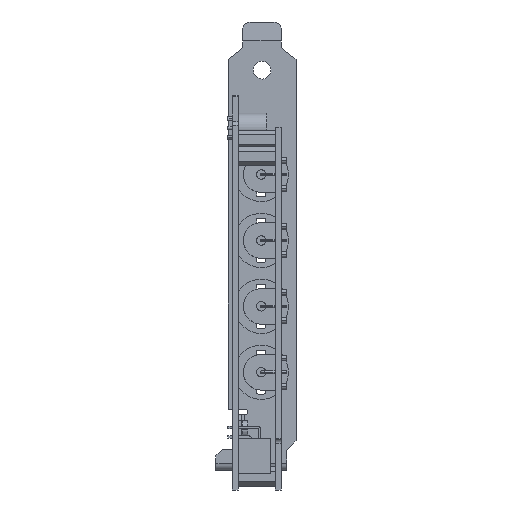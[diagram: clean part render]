
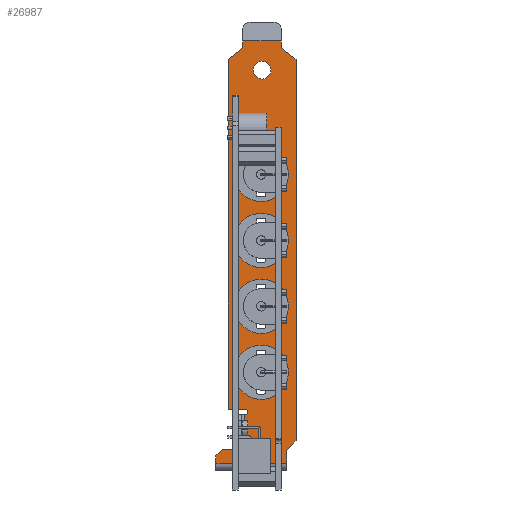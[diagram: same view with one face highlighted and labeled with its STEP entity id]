
A CAD part, front view. The second image highlights one B-rep face of the part: STEP entity #26987.
In plain terms, the highlighted planar face has unit normal (0, -1, 0).
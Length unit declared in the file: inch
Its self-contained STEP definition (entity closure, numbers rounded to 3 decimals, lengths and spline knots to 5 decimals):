
#6784=DIRECTION('',(0.,0.,1.));
#6785=VECTOR('',#6784,0.312);
#6786=CARTESIAN_POINT('',(0.132,0.335,-3.518));
#6787=LINE('',#6786,#6785);
#6962=DIRECTION('',(1.,0.,0.));
#6963=VECTOR('',#6962,0.412);
#6964=CARTESIAN_POINT('',(0.108,0.335,0.764));
#6965=LINE('',#6964,#6963);
#6966=DIRECTION('',(0.,0.,-1.));
#6967=VECTOR('',#6966,0.074);
#6968=CARTESIAN_POINT('',(0.52,0.335,0.764));
#6969=LINE('',#6968,#6967);
#6970=DIRECTION('',(-0.788,0.,0.616));
#6971=VECTOR('',#6970,0.1967);
#6972=CARTESIAN_POINT('',(0.675,0.335,0.5689));
#6973=LINE('',#6972,#6971);
#6974=DIRECTION('',(0.707,0.,0.707));
#6975=VECTOR('',#6974,0.14142);
#6976=CARTESIAN_POINT('',(0.575,0.335,-3.583));
#6977=LINE('',#6976,#6975);
#6978=DIRECTION('',(0.,0.,1.));
#6979=VECTOR('',#6978,0.137);
#6980=CARTESIAN_POINT('',(0.575,0.335,-3.72));
#6981=LINE('',#6980,#6979);
#6982=DIRECTION('',(-1.,0.,0.));
#6983=VECTOR('',#6982,0.75);
#6984=CARTESIAN_POINT('',(0.575,0.335,-3.72));
#6985=LINE('',#6984,#6983);
#6986=DIRECTION('',(-0.707,0.,-0.707));
#6987=VECTOR('',#6986,0.09192);
#6988=CARTESIAN_POINT('',(-0.11,0.335,-3.577));
#6989=LINE('',#6988,#6987);
#6990=DIRECTION('',(1.,0.,0.));
#6991=VECTOR('',#6990,0.242);
#6992=CARTESIAN_POINT('',(-0.11,0.335,-3.577));
#6993=LINE('',#6992,#6991);
#6994=CARTESIAN_POINT('',(0.132,0.335,-3.5475));
#6995=DIRECTION('',(0.,1.,0.));
#6996=DIRECTION('',(0.,0.,1.));
#6997=AXIS2_PLACEMENT_3D('',#6994,#6995,#6996);
#6999=CARTESIAN_POINT('',(0.132,0.335,-3.1765));
#7000=DIRECTION('',(0.,1.,0.));
#7001=DIRECTION('',(0.,0.,1.));
#7002=AXIS2_PLACEMENT_3D('',#6999,#7000,#7001);
#7004=DIRECTION('',(-1.,0.,0.));
#7005=VECTOR('',#7004,0.179);
#7006=CARTESIAN_POINT('',(0.132,0.335,-3.147));
#7007=LINE('',#7006,#7005);
#7008=DIRECTION('',(0.,0.,-1.));
#7009=VECTOR('',#7008,3.7159);
#7010=CARTESIAN_POINT('',(-0.047,0.335,0.5689));
#7011=LINE('',#7010,#7009);
#7012=DIRECTION('',(-0.788,0.,-0.616));
#7013=VECTOR('',#7012,0.1967);
#7014=CARTESIAN_POINT('',(0.108,0.335,0.69));
#7015=LINE('',#7014,#7013);
#7016=DIRECTION('',(0.,0.,-1.));
#7017=VECTOR('',#7016,0.074);
#7018=CARTESIAN_POINT('',(0.108,0.335,0.764));
#7019=LINE('',#7018,#7017);
#7020=CARTESIAN_POINT('',(0.314,0.335,0.453));
#7021=DIRECTION('',(0.,1.,0.));
#7022=DIRECTION('',(0.,0.,1.));
#7023=AXIS2_PLACEMENT_3D('',#7020,#7021,#7022);
#7025=CARTESIAN_POINT('',(0.314,0.335,0.453));
#7026=DIRECTION('',(0.,1.,0.));
#7027=DIRECTION('',(0.,0.,-1.));
#7028=AXIS2_PLACEMENT_3D('',#7025,#7026,#7027);
#7030=CARTESIAN_POINT('',(0.239,0.335,-0.16));
#7031=DIRECTION('',(0.,1.,0.));
#7032=DIRECTION('',(1.,0.,0.));
#7033=AXIS2_PLACEMENT_3D('',#7030,#7031,#7032);
#7035=CARTESIAN_POINT('',(0.239,0.335,-0.16));
#7036=DIRECTION('',(0.,1.,0.));
#7037=DIRECTION('',(-1.,0.,0.));
#7038=AXIS2_PLACEMENT_3D('',#7035,#7036,#7037);
#7040=CARTESIAN_POINT('',(0.30639,0.335,-2.754));
#7041=DIRECTION('',(0.,-1.,0.));
#7042=DIRECTION('',(1.,0.,0.));
#7043=AXIS2_PLACEMENT_3D('',#7040,#7041,#7042);
#7045=CARTESIAN_POINT('',(0.30639,0.335,-2.754));
#7046=DIRECTION('',(0.,-1.,0.));
#7047=DIRECTION('',(-1.,0.,0.));
#7048=AXIS2_PLACEMENT_3D('',#7045,#7046,#7047);
#7050=CARTESIAN_POINT('',(0.30639,0.335,-2.054));
#7051=DIRECTION('',(0.,-1.,0.));
#7052=DIRECTION('',(1.,0.,0.));
#7053=AXIS2_PLACEMENT_3D('',#7050,#7051,#7052);
#7055=CARTESIAN_POINT('',(0.30639,0.335,-2.054));
#7056=DIRECTION('',(0.,-1.,0.));
#7057=DIRECTION('',(-1.,0.,0.));
#7058=AXIS2_PLACEMENT_3D('',#7055,#7056,#7057);
#7060=CARTESIAN_POINT('',(0.30639,0.335,-1.354));
#7061=DIRECTION('',(0.,-1.,0.));
#7062=DIRECTION('',(1.,0.,0.));
#7063=AXIS2_PLACEMENT_3D('',#7060,#7061,#7062);
#7065=CARTESIAN_POINT('',(0.30639,0.335,-1.354));
#7066=DIRECTION('',(0.,-1.,0.));
#7067=DIRECTION('',(-1.,0.,0.));
#7068=AXIS2_PLACEMENT_3D('',#7065,#7066,#7067);
#7070=CARTESIAN_POINT('',(0.30639,0.335,-0.654));
#7071=DIRECTION('',(0.,-1.,0.));
#7072=DIRECTION('',(1.,0.,0.));
#7073=AXIS2_PLACEMENT_3D('',#7070,#7071,#7072);
#7075=CARTESIAN_POINT('',(0.30639,0.335,-0.654));
#7076=DIRECTION('',(0.,-1.,0.));
#7077=DIRECTION('',(-1.,0.,0.));
#7078=AXIS2_PLACEMENT_3D('',#7075,#7076,#7077);
#7192=DIRECTION('',(0.,0.,1.));
#7193=VECTOR('',#7192,4.0519);
#7194=CARTESIAN_POINT('',(0.675,0.335,-3.483));
#7195=LINE('',#7194,#7193);
#7470=DIRECTION('',(0.,0.,1.));
#7471=VECTOR('',#7470,0.078);
#7472=CARTESIAN_POINT('',(-0.175,0.335,-3.72));
#7473=LINE('',#7472,#7471);
#16290=CARTESIAN_POINT('',(-0.175,0.335,-3.72));
#16292=VERTEX_POINT('',#16290);
#16293=CARTESIAN_POINT('',(0.575,0.335,-3.72));
#16295=VERTEX_POINT('',#16293);
#16297=CARTESIAN_POINT('',(0.575,0.335,-3.583));
#16298=VERTEX_POINT('',#16297);
#16299=CARTESIAN_POINT('',(0.675,0.335,-3.483));
#16300=VERTEX_POINT('',#16299);
#16301=CARTESIAN_POINT('',(0.108,0.335,0.69));
#16302=CARTESIAN_POINT('',(-0.047,0.335,0.5689));
#16303=VERTEX_POINT('',#16301);
#16304=VERTEX_POINT('',#16302);
#16305=CARTESIAN_POINT('',(0.675,0.335,0.5689));
#16306=CARTESIAN_POINT('',(0.52,0.335,0.69));
#16307=VERTEX_POINT('',#16305);
#16308=VERTEX_POINT('',#16306);
#16309=CARTESIAN_POINT('',(-0.175,0.335,-3.642));
#16310=VERTEX_POINT('',#16309);
#16417=CARTESIAN_POINT('',(0.314,0.335,0.5465));
#16418=CARTESIAN_POINT('',(0.314,0.335,0.3595));
#16419=VERTEX_POINT('',#16417);
#16420=VERTEX_POINT('',#16418);
#16421=CARTESIAN_POINT('',(0.108,0.335,0.764));
#16422=VERTEX_POINT('',#16421);
#16423=CARTESIAN_POINT('',(0.52,0.335,0.764));
#16424=VERTEX_POINT('',#16423);
#16453=CARTESIAN_POINT('',(-0.11,0.335,-3.577));
#16454=CARTESIAN_POINT('',(0.132,0.335,-3.577));
#16455=VERTEX_POINT('',#16453);
#16456=VERTEX_POINT('',#16454);
#16457=CARTESIAN_POINT('',(0.132,0.335,-3.518));
#16458=VERTEX_POINT('',#16457);
#16459=CARTESIAN_POINT('',(0.132,0.335,-3.147));
#16460=CARTESIAN_POINT('',(0.132,0.335,-3.206));
#16461=VERTEX_POINT('',#16459);
#16462=VERTEX_POINT('',#16460);
#16463=CARTESIAN_POINT('',(-0.047,0.335,-3.147));
#16464=VERTEX_POINT('',#16463);
#16513=CARTESIAN_POINT('',(0.3455,0.335,-0.16));
#16514=CARTESIAN_POINT('',(0.1325,0.335,-0.16));
#16515=VERTEX_POINT('',#16513);
#16516=VERTEX_POINT('',#16514);
#17597=CARTESIAN_POINT('',(0.59389,0.335,-2.754));
#17598=CARTESIAN_POINT('',(0.01889,0.335,-2.754));
#17599=VERTEX_POINT('',#17597);
#17600=VERTEX_POINT('',#17598);
#17653=CARTESIAN_POINT('',(0.59389,0.335,-2.054));
#17654=CARTESIAN_POINT('',(0.01889,0.335,-2.054));
#17655=VERTEX_POINT('',#17653);
#17656=VERTEX_POINT('',#17654);
#17709=CARTESIAN_POINT('',(0.59389,0.335,-1.354));
#17710=CARTESIAN_POINT('',(0.01889,0.335,-1.354));
#17711=VERTEX_POINT('',#17709);
#17712=VERTEX_POINT('',#17710);
#17765=CARTESIAN_POINT('',(0.59389,0.335,-0.654));
#17766=CARTESIAN_POINT('',(0.01889,0.335,-0.654));
#17767=VERTEX_POINT('',#17765);
#17768=VERTEX_POINT('',#17766);
#26913=CARTESIAN_POINT('',(0.675,0.335,-3.72));
#26914=DIRECTION('',(0.,1.,0.));
#26915=DIRECTION('',(0.,0.,1.));
#26916=AXIS2_PLACEMENT_3D('',#26913,#26914,#26915);
#26917=PLANE('',#26916);
#26919=ORIENTED_EDGE('',*,*,#26918,.T.);
#26920=ORIENTED_EDGE('',*,*,#26894,.T.);
#26921=ORIENTED_EDGE('',*,*,#26904,.F.);
#26923=ORIENTED_EDGE('',*,*,#26922,.F.);
#26925=ORIENTED_EDGE('',*,*,#26924,.F.);
#26927=ORIENTED_EDGE('',*,*,#26926,.F.);
#26929=ORIENTED_EDGE('',*,*,#26928,.T.);
#26931=ORIENTED_EDGE('',*,*,#26930,.T.);
#26933=ORIENTED_EDGE('',*,*,#26932,.F.);
#26935=ORIENTED_EDGE('',*,*,#26934,.T.);
#26937=ORIENTED_EDGE('',*,*,#26936,.F.);
#26938=ORIENTED_EDGE('',*,*,#26712,.T.);
#26940=ORIENTED_EDGE('',*,*,#26939,.F.);
#26942=ORIENTED_EDGE('',*,*,#26941,.T.);
#26944=ORIENTED_EDGE('',*,*,#26943,.F.);
#26946=ORIENTED_EDGE('',*,*,#26945,.F.);
#26948=ORIENTED_EDGE('',*,*,#26947,.F.);
#26949=EDGE_LOOP('',(#26919,#26920,#26921,#26923,#26925,#26927,#26929,#26931,
#26933,#26935,#26937,#26938,#26940,#26942,#26944,#26946,#26948));
#26950=FACE_OUTER_BOUND('',#26949,.F.);
#26952=ORIENTED_EDGE('',*,*,#26951,.F.);
#26954=ORIENTED_EDGE('',*,*,#26953,.F.);
#26955=EDGE_LOOP('',(#26952,#26954));
#26956=FACE_BOUND('',#26955,.F.);
#26958=ORIENTED_EDGE('',*,*,#26957,.F.);
#26960=ORIENTED_EDGE('',*,*,#26959,.F.);
#26961=EDGE_LOOP('',(#26958,#26960));
#26962=FACE_BOUND('',#26961,.F.);
#26964=ORIENTED_EDGE('',*,*,#26963,.T.);
#26966=ORIENTED_EDGE('',*,*,#26965,.T.);
#26967=EDGE_LOOP('',(#26964,#26966));
#26968=FACE_BOUND('',#26967,.F.);
#26970=ORIENTED_EDGE('',*,*,#26969,.T.);
#26972=ORIENTED_EDGE('',*,*,#26971,.T.);
#26973=EDGE_LOOP('',(#26970,#26972));
#26974=FACE_BOUND('',#26973,.F.);
#26976=ORIENTED_EDGE('',*,*,#26975,.T.);
#26978=ORIENTED_EDGE('',*,*,#26977,.T.);
#26979=EDGE_LOOP('',(#26976,#26978));
#26980=FACE_BOUND('',#26979,.F.);
#26982=ORIENTED_EDGE('',*,*,#26981,.T.);
#26984=ORIENTED_EDGE('',*,*,#26983,.T.);
#26985=EDGE_LOOP('',(#26982,#26984));
#26986=FACE_BOUND('',#26985,.F.);
#26987=ADVANCED_FACE('',(#26950,#26956,#26962,#26968,#26974,#26980,#26986),
#26917,.F.);
#6998=CIRCLE('',#6997,0.0295);
#7003=CIRCLE('',#7002,0.0295);
#7024=CIRCLE('',#7023,0.0935);
#7029=CIRCLE('',#7028,0.0935);
#7034=CIRCLE('',#7033,0.1065);
#7039=CIRCLE('',#7038,0.1065);
#7044=CIRCLE('',#7043,0.2875);
#7049=CIRCLE('',#7048,0.2875);
#7054=CIRCLE('',#7053,0.2875);
#7059=CIRCLE('',#7058,0.2875);
#7064=CIRCLE('',#7063,0.2875);
#7069=CIRCLE('',#7068,0.2875);
#7074=CIRCLE('',#7073,0.2875);
#7079=CIRCLE('',#7078,0.2875);
#26712=EDGE_CURVE('',#16458,#16462,#6787,.T.);
#26894=EDGE_CURVE('',#16424,#16308,#6969,.T.);
#26904=EDGE_CURVE('',#16307,#16308,#6973,.T.);
#26918=EDGE_CURVE('',#16422,#16424,#6965,.T.);
#26922=EDGE_CURVE('',#16300,#16307,#7195,.T.);
#26924=EDGE_CURVE('',#16298,#16300,#6977,.T.);
#26926=EDGE_CURVE('',#16295,#16298,#6981,.T.);
#26928=EDGE_CURVE('',#16295,#16292,#6985,.T.);
#26930=EDGE_CURVE('',#16292,#16310,#7473,.T.);
#26932=EDGE_CURVE('',#16455,#16310,#6989,.T.);
#26934=EDGE_CURVE('',#16455,#16456,#6993,.T.);
#26936=EDGE_CURVE('',#16458,#16456,#6998,.T.);
#26939=EDGE_CURVE('',#16461,#16462,#7003,.T.);
#26941=EDGE_CURVE('',#16461,#16464,#7007,.T.);
#26943=EDGE_CURVE('',#16304,#16464,#7011,.T.);
#26945=EDGE_CURVE('',#16303,#16304,#7015,.T.);
#26947=EDGE_CURVE('',#16422,#16303,#7019,.T.);
#26951=EDGE_CURVE('',#16419,#16420,#7024,.T.);
#26953=EDGE_CURVE('',#16420,#16419,#7029,.T.);
#26957=EDGE_CURVE('',#16515,#16516,#7034,.T.);
#26959=EDGE_CURVE('',#16516,#16515,#7039,.T.);
#26963=EDGE_CURVE('',#17599,#17600,#7044,.T.);
#26965=EDGE_CURVE('',#17600,#17599,#7049,.T.);
#26969=EDGE_CURVE('',#17655,#17656,#7054,.T.);
#26971=EDGE_CURVE('',#17656,#17655,#7059,.T.);
#26975=EDGE_CURVE('',#17711,#17712,#7064,.T.);
#26977=EDGE_CURVE('',#17712,#17711,#7069,.T.);
#26981=EDGE_CURVE('',#17767,#17768,#7074,.T.);
#26983=EDGE_CURVE('',#17768,#17767,#7079,.T.);
